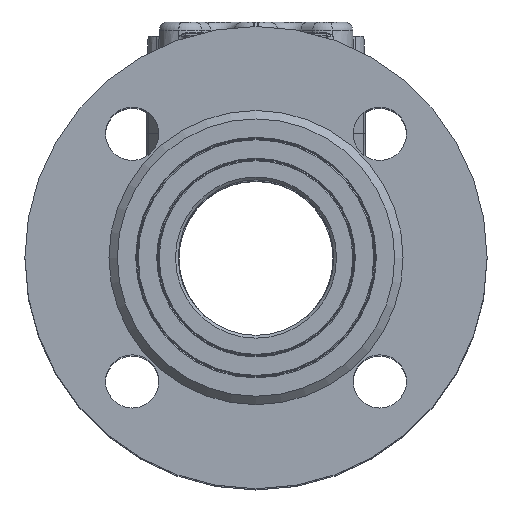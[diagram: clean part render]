
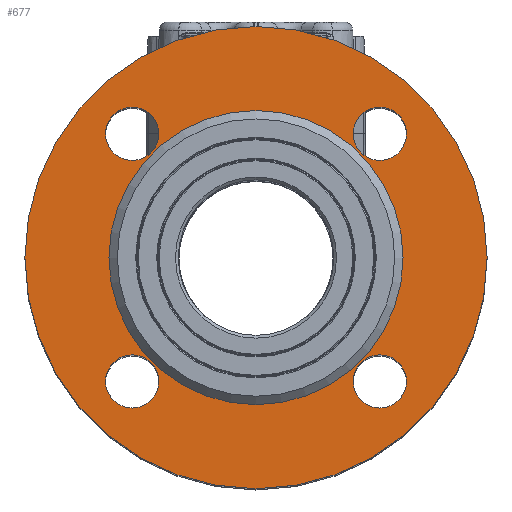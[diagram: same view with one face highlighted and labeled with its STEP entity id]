
A CAD part, top view. The second image highlights one B-rep face of the part: STEP entity #677.
In plain terms, the highlighted planar face has unit normal (0, 0, 1).
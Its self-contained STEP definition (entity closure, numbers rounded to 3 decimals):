
#677 = ADVANCED_FACE( '', ( #1555, #1556, #1557, #1558, #1559, #1560 ), #1561, .T. );
#1555 = FACE_BOUND( '', #3808, .T. );
#1556 = FACE_BOUND( '', #3809, .T. );
#1557 = FACE_BOUND( '', #3810, .T. );
#1558 = FACE_BOUND( '', #3811, .T. );
#1559 = FACE_BOUND( '', #3812, .T. );
#1560 = FACE_OUTER_BOUND( '', #3813, .T. );
#1561 = PLANE( '', #3814 );
#3808 = EDGE_LOOP( '', ( #9055 ) );
#3809 = EDGE_LOOP( '', ( #9056 ) );
#3810 = EDGE_LOOP( '', ( #9057 ) );
#3811 = EDGE_LOOP( '', ( #9058 ) );
#3812 = EDGE_LOOP( '', ( #9059 ) );
#3813 = EDGE_LOOP( '', ( #9060 ) );
#3814 = AXIS2_PLACEMENT_3D( '', #9061, #9062, #9063 );
#9055 = ORIENTED_EDGE( '', *, *, #10912, .F. );
#9056 = ORIENTED_EDGE( '', *, *, #11334, .F. );
#9057 = ORIENTED_EDGE( '', *, *, #11245, .F. );
#9058 = ORIENTED_EDGE( '', *, *, #11142, .F. );
#9059 = ORIENTED_EDGE( '', *, *, #11335, .T. );
#9060 = ORIENTED_EDGE( '', *, *, #11336, .F. );
#9061 = CARTESIAN_POINT( '', ( 0., -82.5, 267. ) );
#9062 = DIRECTION( '', ( 0., 0., 1. ) );
#9063 = DIRECTION( '', ( 1., 0., 0. ) );
#10912 = EDGE_CURVE( '', #12035, #12035, #12036, .T. );
#11142 = EDGE_CURVE( '', #12419, #12419, #12420, .T. );
#11245 = EDGE_CURVE( '', #12573, #12573, #12574, .T. );
#11334 = EDGE_CURVE( '', #12703, #12703, #12704, .T. );
#11335 = EDGE_CURVE( '', #12705, #12705, #12706, .T. );
#11336 = EDGE_CURVE( '', #12707, #12707, #12708, .T. );
#12035 = VERTEX_POINT( '', #13721 );
#12036 = CIRCLE( '', #13722, 9.5 );
#12419 = VERTEX_POINT( '', #14537 );
#12420 = CIRCLE( '', #14538, 9.5 );
#12573 = VERTEX_POINT( '', #14855 );
#12574 = CIRCLE( '', #14856, 9.5 );
#12703 = VERTEX_POINT( '', #15209 );
#12704 = CIRCLE( '', #15210, 9.5 );
#12705 = VERTEX_POINT( '', #15211 );
#12706 = CIRCLE( '', #15212, 52.5 );
#12707 = VERTEX_POINT( '', #15213 );
#12708 = CIRCLE( '', #15214, 82.5 );
#13721 = CARTESIAN_POINT( '', ( -34.7, -44.2, 267. ) );
#13722 = AXIS2_PLACEMENT_3D( '', #17064, #17065, #17066 );
#14537 = CARTESIAN_POINT( '', ( -34.7, 44.2, 267. ) );
#14538 = AXIS2_PLACEMENT_3D( '', #17382, #17383, #17384 );
#14855 = CARTESIAN_POINT( '', ( 53.7, 44.2, 267. ) );
#14856 = AXIS2_PLACEMENT_3D( '', #17515, #17516, #17517 );
#15209 = CARTESIAN_POINT( '', ( 53.7, -44.2, 267. ) );
#15210 = AXIS2_PLACEMENT_3D( '', #17629, #17630, #17631 );
#15211 = CARTESIAN_POINT( '', ( -52.5, 0., 267. ) );
#15212 = AXIS2_PLACEMENT_3D( '', #17632, #17633, #17634 );
#15213 = CARTESIAN_POINT( '', ( -82.5, 0., 267. ) );
#15214 = AXIS2_PLACEMENT_3D( '', #17635, #17636, #17637 );
#17064 = CARTESIAN_POINT( '', ( -44.2, -44.2, 267. ) );
#17065 = DIRECTION( '', ( 0., 0., 1. ) );
#17066 = DIRECTION( '', ( 1., 0., 0. ) );
#17382 = CARTESIAN_POINT( '', ( -44.2, 44.2, 267. ) );
#17383 = DIRECTION( '', ( 0., 0., 1. ) );
#17384 = DIRECTION( '', ( 1., 0., 0. ) );
#17515 = CARTESIAN_POINT( '', ( 44.2, 44.2, 267. ) );
#17516 = DIRECTION( '', ( 0., 0., 1. ) );
#17517 = DIRECTION( '', ( 1., 0., 0. ) );
#17629 = CARTESIAN_POINT( '', ( 44.2, -44.2, 267. ) );
#17630 = DIRECTION( '', ( 0., 0., 1. ) );
#17631 = DIRECTION( '', ( 1., 0., 0. ) );
#17632 = CARTESIAN_POINT( '', ( 0., 0., 267. ) );
#17633 = DIRECTION( '', ( 0., 0., -1. ) );
#17634 = DIRECTION( '', ( -1., 0., 0. ) );
#17635 = CARTESIAN_POINT( '', ( 0., 0., 267. ) );
#17636 = DIRECTION( '', ( 0., 0., -1. ) );
#17637 = DIRECTION( '', ( -1., 0., 0. ) );
